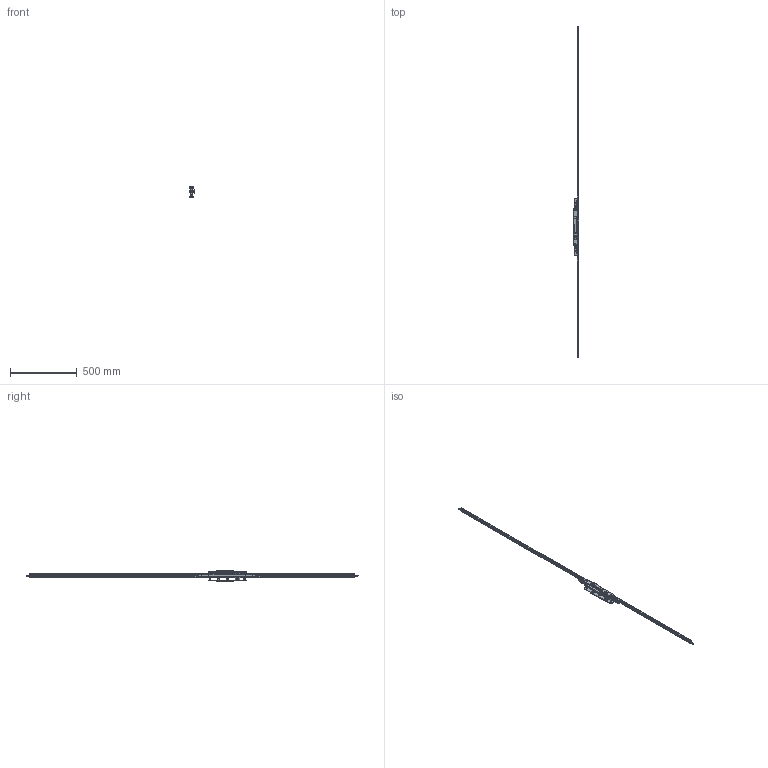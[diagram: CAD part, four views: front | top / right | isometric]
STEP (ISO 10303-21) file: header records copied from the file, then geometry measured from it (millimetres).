
FILE_DESCRIPTION (( 'STEP AP214' ), '1' );
FILE_NAME ('TPL-W-EU-630 06Nov2024.STEP', '2024-11-28T03:04:25', ( '' ), ( '' ), 'SwSTEP 2.0', 'SolidWorks 2023', '' );
FILE_SCHEMA (( 'AUTOMOTIVE_DESIGN' ));
Length unit declared in the file: millimetre
Products named in the file (24): Copy of TPLGen2 lock body keyed assembly^TPL-W-EU-125 04Nov2024_Bolts extended; Copy of COV-112-A Cover A suit TPLGen2 standard range^TPL-W-EU-125 04Nov2024_1335mm; Copy of LKC-505 Swing handle zinc - simplified^Copy of TPGen2 handle keyed external zinc - simplified_TPL-W-EU-125 04Nov2024; Copy of COV-112-C Cover C TPLGen2 Lock body^TPL-W-EU-125 04Nov2024; Copy of LKC-531 Lock twinpoint transmission rod wood system^TPL-W-EU-125 04Nov2024_Standard Range (588.7mm); Copy of COV-112-B Cover B suit TPLGen2 standard range^TPL-W-EU-125 04Nov2024_2870mm; Copy of Adapter CnE - simplfied^TPL-W-EU-125 04Nov2024_26mm backset; Copy of Copy of LKC-531 Lock twinpoint transmission rod wood system^TPL-W-EU-125 04Nov2024_Standard Range 2891.7mm; Copy of TPGen2 handle keyed internal zinc - simplified^TPL-W-EU-125 04Nov2024_Vertical; Copy of TPL-W-EU-131 04Nov2024^TPL-W-EU-125 04Nov2024_TPL-050-70 Left; TPL-W-EU-630 06Nov2024; Copy of TPGen2 handle keyed external zinc - simplified^TPL-W-EU-125 04Nov2024_Vertical; Copy of LKC-584 Pivot body zinc - simplified^Copy of TPGen2 handle keyed internal zinc - simplified_TPL-W-EU-125 04Nov2024; Bolt.step; Copy of Adapter DnF - simplfied^TPL-W-EU-125 04Nov2024_26mm backset; Copy of LKC-586 Spindle square 8mm with M4 hole^Copy of TPGen2 handle keyed internal zinc - simplified_TPL-W-EU-125 04Nov2024_56mm; Copy of LKC-512 Escutcheon plate keyed internal 285mm long zinc - simplified^Copy of TPGen2 handle keyed internal zinc - simplified_TPL-W-EU-125 04Nov2024; Copy of TPLGen2 lock body keyed^Copy of TPLGen2 lock body keyed assembly_TPL-W-EU-125 04Nov2024; Copy of LKC-514 Escutcheon plate keyed external 285mm long zinc - simplified^Copy of TPGen2 handle keyed external zinc - simplified_TPL-W-EU-125 04Nov2024; TPLGen2 push rod - simplified_Female thread M10; Copy of LKC-584 Pivot body zinc - simplified^Copy of TPGen2 handle keyed external zinc - simplified_TPL-W-EU-125 04Nov2024; Copy of LKC-505 Swing handle zinc - simplified^Copy of TPGen2 handle keyed internal zinc - simplified_TPL-W-EU-125 04Nov2024; Copy of LKC-585 Rotator body zinc^Copy of TPGen2 handle keyed internal zinc - simplified_TPL-W-EU-125 04Nov2024; Copy of LKC-585 Rotator body zinc^Copy of TPGen2 handle keyed external zinc - simplified_TPL-W-EU-125 04Nov2024
Assembly tree (25 placements, depth 3):
  TPL-W-EU-630 06Nov2024
    Copy of TPLGen2 lock body keyed assembly^TPL-W-EU-125 04Nov2024_Bolts extended
      Copy of TPLGen2 lock body keyed^Copy of TPLGen2 lock body keyed assembly_TPL-W-EU-125 04Nov2024
      TPLGen2 push rod - simplified_Female thread M10  x2
    Copy of TPGen2 handle keyed internal zinc - simplified^TPL-W-EU-125 04Nov2024_Vertical
      Copy of LKC-512 Escutcheon plate keyed internal 285mm long zinc - simplified^Copy of TPGen2 handle keyed internal zinc - simplified_TPL-W-EU-125 04Nov2024
      Copy of LKC-505 Swing handle zinc - simplified^Copy of TPGen2 handle keyed internal zinc - simplified_TPL-W-EU-125 04Nov2024
      Copy of LKC-585 Rotator body zinc^Copy of TPGen2 handle keyed internal zinc - simplified_TPL-W-EU-125 04Nov2024
      Copy of LKC-586 Spindle square 8mm with M4 hole^Copy of TPGen2 handle keyed internal zinc - simplified_TPL-W-EU-125 04Nov2024_56mm
      Copy of LKC-584 Pivot body zinc - simplified^Copy of TPGen2 handle keyed internal zinc - simplified_TPL-W-EU-125 04Nov2024
    Copy of TPGen2 handle keyed external zinc - simplified^TPL-W-EU-125 04Nov2024_Vertical
      Copy of LKC-514 Escutcheon plate keyed external 285mm long zinc - simplified^Copy of TPGen2 handle keyed external zinc - simplified_TPL-W-EU-125 04Nov2024
      Copy of LKC-505 Swing handle zinc - simplified^Copy of TPGen2 handle keyed external zinc - simplified_TPL-W-EU-125 04Nov2024
      Copy of LKC-585 Rotator body zinc^Copy of TPGen2 handle keyed external zinc - simplified_TPL-W-EU-125 04Nov2024
      Copy of LKC-584 Pivot body zinc - simplified^Copy of TPGen2 handle keyed external zinc - simplified_TPL-W-EU-125 04Nov2024
    Copy of TPL-W-EU-131 04Nov2024^TPL-W-EU-125 04Nov2024_TPL-050-70 Left
    Bolt.step  x2
    Copy of COV-112-C Cover C TPLGen2 Lock body^TPL-W-EU-125 04Nov2024
    Copy of COV-112-A Cover A suit TPLGen2 standard range^TPL-W-EU-125 04Nov2024_1335mm
    Copy of COV-112-B Cover B suit TPLGen2 standard range^TPL-W-EU-125 04Nov2024_2870mm
    Copy of LKC-531 Lock twinpoint transmission rod wood system^TPL-W-EU-125 04Nov2024_Standard Range (588.7mm)
    Copy of Copy of LKC-531 Lock twinpoint transmission rod wood system^TPL-W-EU-125 04Nov2024_Standard Range 2891.7mm
    Copy of Adapter CnE - simplfied^TPL-W-EU-125 04Nov2024_26mm backset
    Copy of Adapter DnF - simplfied^TPL-W-EU-125 04Nov2024_26mm backset
Bounding box: 43.5 x 2490 x 88.92 mm (x, y, z)
Volume: 672454.8 mm3; surface area: 435163.6 mm2
Topology: 22 solids, 22 shells, 1580 faces, 3956 edges, 2449 vertices
Faces by surface type: plane 476, bspline 417, cylinder 407, cone 162, torus 98, sphere 20
Entity records: 58517 total; most frequent: CARTESIAN_POINT 24449, ORIENTED_EDGE 7554, DIRECTION 6237, EDGE_CURVE 3777, AXIS2_PLACEMENT_3D 2387, VERTEX_POINT 2337, EDGE_LOOP 1668, ADVANCED_FACE 1518
